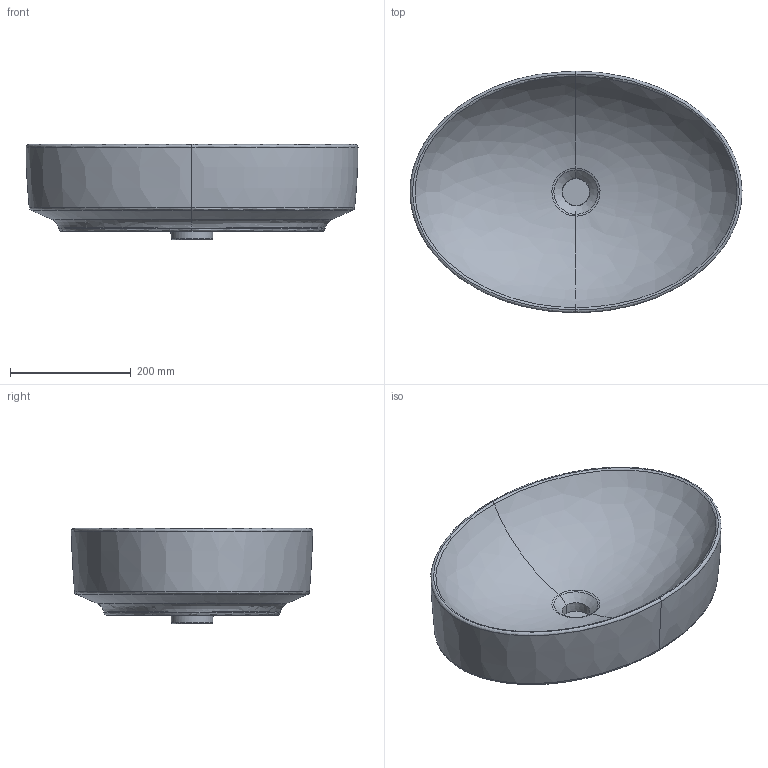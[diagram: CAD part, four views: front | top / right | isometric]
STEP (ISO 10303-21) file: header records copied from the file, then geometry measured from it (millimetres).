
FILE_DESCRIPTION(/* description */ (''),/* implementation_level */ '2;1');
FILE_NAME(/* name */ 'C:\Planerdaten\Export PLA\500.771.01.1\stp\500771.stp',/* time_stamp */ '2020-02-27T11:09:06+01:00',/* author */ ('JANAN'),/* organization */ (''),/* preprocessor_version */ 'ST-DEVELOPER v16.13',/* originating_system */ 'Autodesk Inventor 2018',/* authorisation */ '');
FILE_SCHEMA (('AUTOMOTIVE_DESIGN { 1 0 10303 214 3 1 1 }'));
Length unit declared in the file: millimetre
Products named in the file (1): AWT Ge+VaF ovl B55 o/ ÜLF
Bounding box: 549.84 x 400 x 158 mm (x, y, z)
Volume: 12193495.1 mm3; surface area: 565952.7 mm2
Topology: 1 solids, 1 shells, 40 faces, 79 edges, 45 vertices
Faces by surface type: bspline 20, cone 9, plane 6, cylinder 4, torus 1
Full cylindrical faces by diameter (mm): 14 x2, 20 x2
Entity records: 23423 total; most frequent: CARTESIAN_POINT 22666, ORIENTED_EDGE 136, DIRECTION 114, EDGE_CURVE 68, EDGE_LOOP 52, AXIS2_PLACEMENT_3D 52, VERTEX_POINT 42, STYLED_ITEM 41
